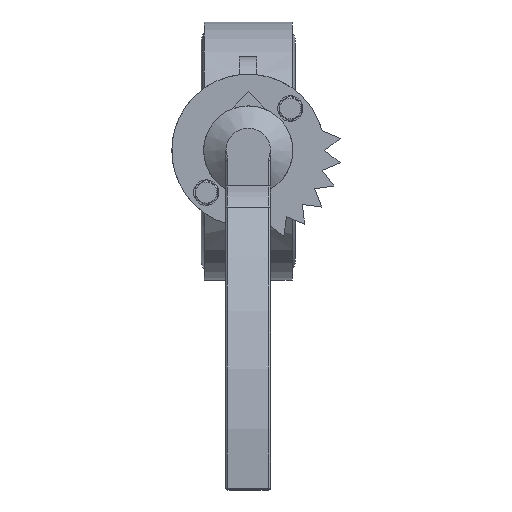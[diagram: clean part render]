
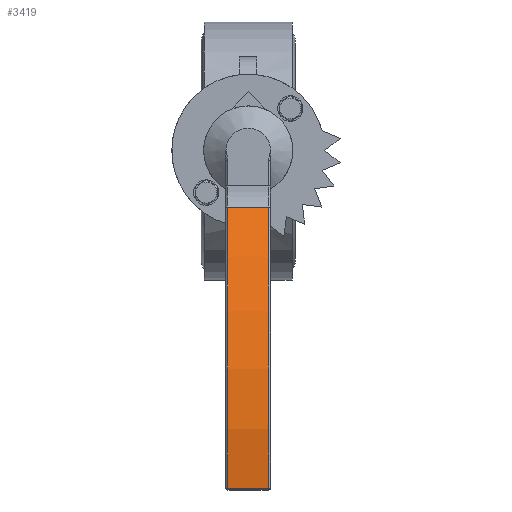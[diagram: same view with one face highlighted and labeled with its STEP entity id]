
A CAD part, top view. The second image highlights one B-rep face of the part: STEP entity #3419.
In plain terms, the highlighted cylindrical face has radius 218.256 mm (diameter 436.512 mm), a partial arc.
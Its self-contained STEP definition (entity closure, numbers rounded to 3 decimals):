
#3419=ADVANCED_FACE('',(#7206),#7208,.T.);
#7206=FACE_BOUND('',#7207,.T.);
#7207=EDGE_LOOP('',(#10602,#10603,#10604,#10605));
#7208=CYLINDRICAL_SURFACE('',#7209,218.256);
#7209=AXIS2_PLACEMENT_3D('',#7210,#7211,#7212);
#7210=CARTESIAN_POINT('',(169.067,-13.125,-146.14));
#7211=DIRECTION('',(0.,1.,0.));
#7212=DIRECTION('',(-0.622,0.,0.783));
#10602=ORIENTED_EDGE('',*,*,#11980,.F.);
#10603=ORIENTED_EDGE('',*,*,#12005,.F.);
#10604=ORIENTED_EDGE('',*,*,#11998,.T.);
#10605=ORIENTED_EDGE('',*,*,#12006,.T.);
#11980=EDGE_CURVE('',#14064,#14067,#14068,.T.);
#11998=EDGE_CURVE('',#14092,#14093,#14094,.T.);
#12005=EDGE_CURVE('',#14092,#14064,#14101,.T.);
#12006=EDGE_CURVE('',#14093,#14067,#14102,.T.);
#14064=VERTEX_POINT('',#21135);
#14067=VERTEX_POINT('',#21144);
#14068=CIRCLE('',#21145,218.256);
#14092=VERTEX_POINT('',#21212);
#14093=VERTEX_POINT('',#21213);
#14094=CIRCLE('',#21214,218.256);
#14101=LINE('',#21277,#21278);
#14102=LINE('',#21280,#21281);
#21135=CARTESIAN_POINT('',(33.291,12.125,24.741));
#21144=CARTESIAN_POINT('',(199.138,12.125,70.034));
#21145=AXIS2_PLACEMENT_3D('',#21146,#21147,#21148);
#21146=CARTESIAN_POINT('',(169.067,12.125,-146.14));
#21147=DIRECTION('',(0.,1.,0.));
#21148=DIRECTION('',(-0.622,0.,0.783));
#21212=CARTESIAN_POINT('',(33.291,-12.125,24.741));
#21213=CARTESIAN_POINT('',(199.138,-12.125,70.034));
#21214=AXIS2_PLACEMENT_3D('',#21215,#21216,#21217);
#21215=CARTESIAN_POINT('',(169.067,-12.125,-146.14));
#21216=DIRECTION('',(0.,1.,0.));
#21217=DIRECTION('',(-0.622,0.,0.783));
#21277=CARTESIAN_POINT('',(33.291,-12.125,24.741));
#21278=VECTOR('',#21279,1.);
#21279=DIRECTION('',(0.,1.,0.));
#21280=CARTESIAN_POINT('',(199.138,-12.125,70.034));
#21281=VECTOR('',#21282,1.);
#21282=DIRECTION('',(0.,1.,0.));
